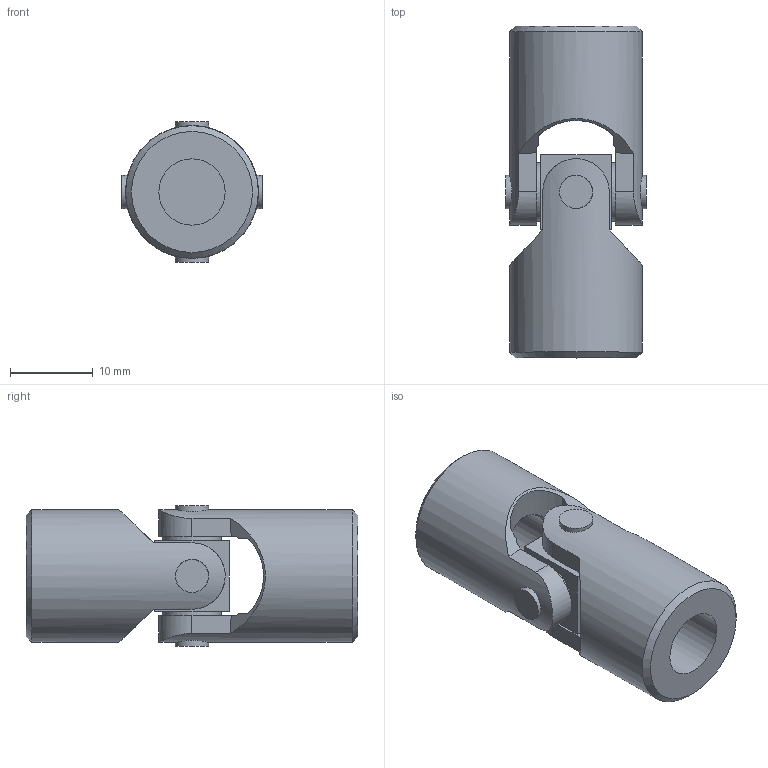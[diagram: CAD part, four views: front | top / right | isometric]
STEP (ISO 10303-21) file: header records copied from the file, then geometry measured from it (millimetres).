
FILE_DESCRIPTION(/* description */ ('EXTENSIBLE TRANSIMISSIONS Series G DIN 808 -2-'),/* implementation_level */ '2;1');
FILE_NAME(/* name */ '\\SRV2016\societa\Stefano\Disegni 3D\0Catalogo 3D\13Singoli X\Ø16_02X_SX0S0800.stp',/* time_stamp */ '2023-05-12T15:51:03+02:00',/* author */ ('acquisti'),/* organization */ ('MARIOFERRI'),/* preprocessor_version */ 'ST-DEVELOPER v15.6',/* originating_system */ 'Autodesk Inventor 2015',/* authorisation */ '');
FILE_SCHEMA (('AUTOMOTIVE_DESIGN { 1 0 10303 214 3 1 1 }'));
Length unit declared in the file: millimetre
Products named in the file (3): 01-02X SFE; 02X MOS; Ø16_02X_SX0S0800
Assembly tree (3 placements, depth 2):
  Ø16_02X_SX0S0800
    01-02X SFE
    02X MOS  x2
Bounding box: 16.9 x 40 x 16.9 mm (x, y, z)
Volume: 5450.4 mm3; surface area: 3799.4 mm2
Topology: 3 solids, 3 shells, 64 faces, 160 edges, 108 vertices
Faces by surface type: plane 32, cylinder 18, cone 12, torus 2
Full cylindrical faces by diameter (mm): 4 x4, 7 x4, 8 x2, 8.5 x2, 16 x2
Entity records: 1283 total; most frequent: CARTESIAN_POINT 410, DIRECTION 168, ORIENTED_EDGE 152, EDGE_CURVE 76, AXIS2_PLACEMENT_3D 72, EDGE_LOOP 58, VERTEX_POINT 58, FACE_OUTER_BOUND 39
